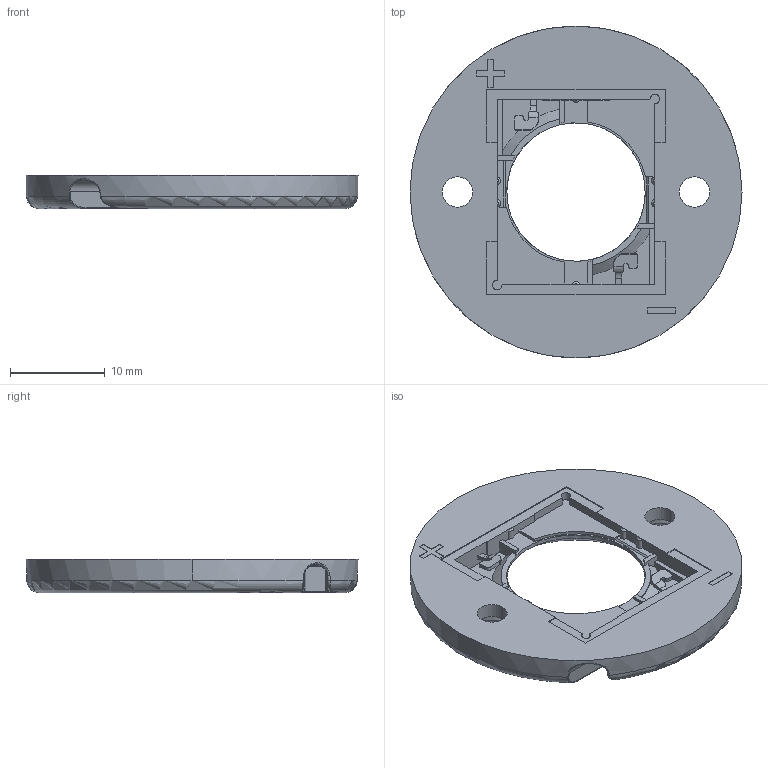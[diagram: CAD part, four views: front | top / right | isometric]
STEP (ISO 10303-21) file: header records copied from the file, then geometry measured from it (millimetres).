
FILE_DESCRIPTION((''),'2;1');
FILE_NAME('C-2213929-6','2021-08-26T09:27:06',('workeradm'),('TE Connectivity Ltd.'),'CREO PARAMETRIC BY PTC INC, 2021072','CREO PARAMETRIC BY PTC INC, 2021072','');
FILE_SCHEMA(('AUTOMOTIVE_DESIGN { 1 0 10303 214 1 1 1 1 }'));
Length unit declared in the file: millimetre
Products named in the file (1): C-2213929-6
Bounding box: 35 x 35 x 3.5 mm (x, y, z)
Volume: 2213.8 mm3; surface area: 2201.5 mm2
Topology: 1 solids, 1 shells, 236 faces, 660 edges, 428 vertices
Faces by surface type: plane 124, cylinder 66, cone 22, bspline 14, torus 10
Entity records: 9623 total; most frequent: CARTESIAN_POINT 3525, ORIENTED_EDGE 1320, DIRECTION 1140, EDGE_CURVE 660, VERTEX_POINT 428, VECTOR 384, LINE 384, AXIS2_PLACEMENT_3D 378
